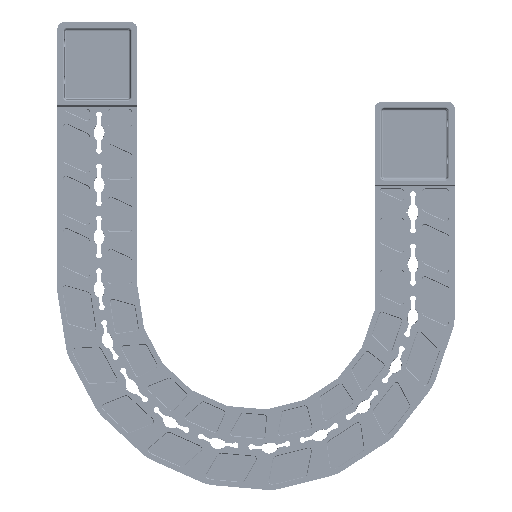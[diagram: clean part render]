
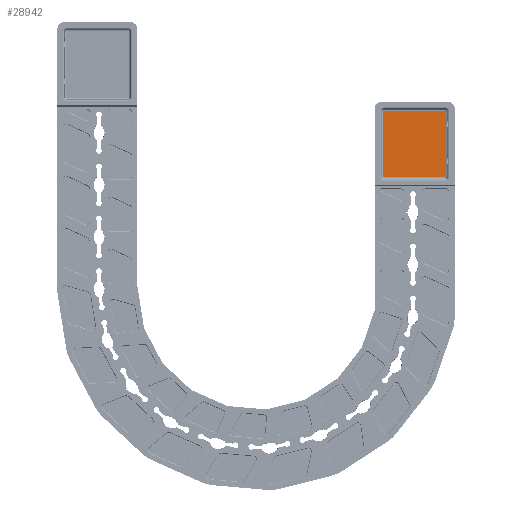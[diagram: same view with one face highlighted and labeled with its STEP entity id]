
A CAD part, front view. The second image highlights one B-rep face of the part: STEP entity #28942.
In plain terms, the highlighted planar face has unit normal (0, -1, 0).
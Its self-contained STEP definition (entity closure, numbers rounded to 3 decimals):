
#25396=DIRECTION('',(0.,0.,-1.));
#25397=VECTOR('',#25396,62.25);
#25398=CARTESIAN_POINT('',(29.526,-51.2,73.5));
#25399=LINE('',#25398,#25397);
#25400=CARTESIAN_POINT('',(29.,-51.2,11.25));
#25401=DIRECTION('',(0.,1.,0.));
#25402=DIRECTION('',(1.,0.,0.));
#25403=AXIS2_PLACEMENT_3D('',#25400,#25401,#25402);
#25405=DIRECTION('',(-1.,0.,0.));
#25406=VECTOR('',#25405,58.);
#25407=CARTESIAN_POINT('',(29.,-51.2,10.724));
#25408=LINE('',#25407,#25406);
#25409=CARTESIAN_POINT('',(-29.,-51.2,11.25));
#25410=DIRECTION('',(0.,1.,0.));
#25411=DIRECTION('',(0.,0.,-1.));
#25412=AXIS2_PLACEMENT_3D('',#25409,#25410,#25411);
#25414=DIRECTION('',(0.,0.,1.));
#25415=VECTOR('',#25414,62.25);
#25416=CARTESIAN_POINT('',(-29.526,-51.2,11.25));
#25417=LINE('',#25416,#25415);
#25418=CARTESIAN_POINT('',(-29.,-51.2,73.5));
#25419=DIRECTION('',(0.,1.,0.));
#25420=DIRECTION('',(-1.,0.,0.));
#25421=AXIS2_PLACEMENT_3D('',#25418,#25419,#25420);
#25423=DIRECTION('',(1.,0.,0.));
#25424=VECTOR('',#25423,58.);
#25425=CARTESIAN_POINT('',(-29.,-51.2,74.026));
#25426=LINE('',#25425,#25424);
#25427=CARTESIAN_POINT('',(29.,-51.2,73.5));
#25428=DIRECTION('',(0.,1.,0.));
#25429=DIRECTION('',(0.,0.,1.));
#25430=AXIS2_PLACEMENT_3D('',#25427,#25428,#25429);
#26632=CARTESIAN_POINT('',(29.526,-51.2,73.5));
#26633=CARTESIAN_POINT('',(29.526,-51.2,11.25));
#26634=VERTEX_POINT('',#26632);
#26635=VERTEX_POINT('',#26633);
#26640=CARTESIAN_POINT('',(29.,-51.2,10.724));
#26641=VERTEX_POINT('',#26640);
#26644=CARTESIAN_POINT('',(-29.,-51.2,10.724));
#26645=VERTEX_POINT('',#26644);
#26648=CARTESIAN_POINT('',(-29.526,-51.2,11.25));
#26649=VERTEX_POINT('',#26648);
#26652=CARTESIAN_POINT('',(-29.526,-51.2,73.5));
#26653=VERTEX_POINT('',#26652);
#26656=CARTESIAN_POINT('',(-29.,-51.2,74.026));
#26657=VERTEX_POINT('',#26656);
#26660=CARTESIAN_POINT('',(29.,-51.2,74.026));
#26661=VERTEX_POINT('',#26660);
#28920=CARTESIAN_POINT('',(38.,-51.2,40.));
#28921=DIRECTION('',(0.,1.,0.));
#28922=DIRECTION('',(0.,0.,1.));
#28923=AXIS2_PLACEMENT_3D('',#28920,#28921,#28922);
#28924=PLANE('',#28923);
#28926=ORIENTED_EDGE('',*,*,#28925,.T.);
#28928=ORIENTED_EDGE('',*,*,#28927,.T.);
#28930=ORIENTED_EDGE('',*,*,#28929,.T.);
#28932=ORIENTED_EDGE('',*,*,#28931,.T.);
#28934=ORIENTED_EDGE('',*,*,#28933,.T.);
#28935=ORIENTED_EDGE('',*,*,#28910,.T.);
#28937=ORIENTED_EDGE('',*,*,#28936,.T.);
#28939=ORIENTED_EDGE('',*,*,#28938,.T.);
#28940=EDGE_LOOP('',(#28926,#28928,#28930,#28932,#28934,#28935,#28937,#28939));
#28941=FACE_OUTER_BOUND('',#28940,.F.);
#28942=ADVANCED_FACE('',(#28941),#28924,.F.);
#25404=CIRCLE('',#25403,0.526);
#25413=CIRCLE('',#25412,0.526);
#25422=CIRCLE('',#25421,0.526);
#25431=CIRCLE('',#25430,0.526);
#28910=EDGE_CURVE('',#26653,#26657,#25422,.T.);
#28925=EDGE_CURVE('',#26634,#26635,#25399,.T.);
#28927=EDGE_CURVE('',#26635,#26641,#25404,.T.);
#28929=EDGE_CURVE('',#26641,#26645,#25408,.T.);
#28931=EDGE_CURVE('',#26645,#26649,#25413,.T.);
#28933=EDGE_CURVE('',#26649,#26653,#25417,.T.);
#28936=EDGE_CURVE('',#26657,#26661,#25426,.T.);
#28938=EDGE_CURVE('',#26661,#26634,#25431,.T.);
